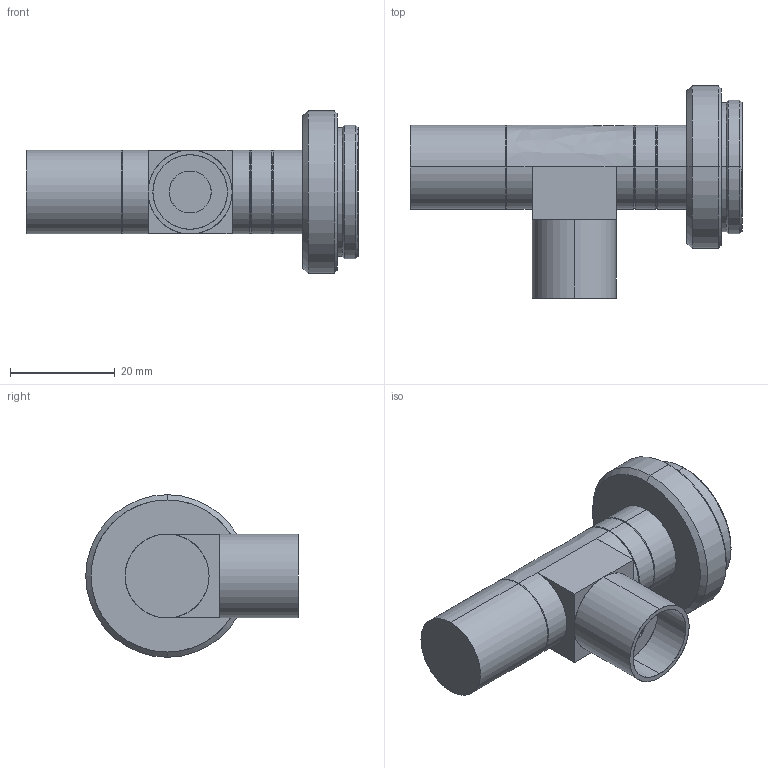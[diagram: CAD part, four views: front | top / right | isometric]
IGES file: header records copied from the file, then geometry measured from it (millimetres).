
Start section: SolidWorks IGES file using analytic representation for surfaces
Bounding box: 63.3 x 40.5 x 31 mm (x, y, z)
Surface area: 6633.3 mm2 (no closed solid volume)
Topology: 0 solids, 0 shells, 56 faces, 676 edges, 676 vertices
Faces by surface type: revolution 41, bspline 15
